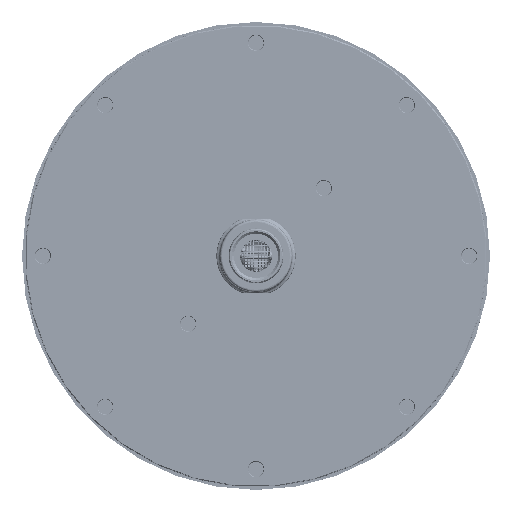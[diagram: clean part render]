
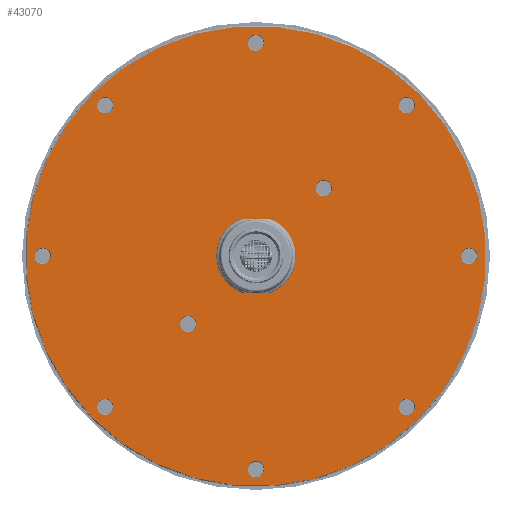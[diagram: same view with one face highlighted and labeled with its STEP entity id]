
A CAD part, top view. The second image highlights one B-rep face of the part: STEP entity #43070.
In plain terms, the highlighted planar face has unit normal (0, 0, 1).
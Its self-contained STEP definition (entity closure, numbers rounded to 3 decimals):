
#8363=FACE_BOUND('',#11437,.T.);
#8364=FACE_BOUND('',#11438,.T.);
#8365=FACE_BOUND('',#11439,.T.);
#8366=FACE_BOUND('',#11440,.T.);
#8367=FACE_BOUND('',#11441,.T.);
#8368=FACE_BOUND('',#11442,.T.);
#8369=FACE_BOUND('',#11443,.T.);
#8370=FACE_BOUND('',#11444,.T.);
#8371=FACE_BOUND('',#11445,.T.);
#8372=FACE_BOUND('',#11446,.T.);
#8373=FACE_BOUND('',#11447,.T.);
#9093=FACE_OUTER_BOUND('',#11436,.T.);
#11436=EDGE_LOOP('',(#28710));
#11437=EDGE_LOOP('',(#28711));
#11438=EDGE_LOOP('',(#28712));
#11439=EDGE_LOOP('',(#28713));
#11440=EDGE_LOOP('',(#28714));
#11441=EDGE_LOOP('',(#28715));
#11442=EDGE_LOOP('',(#28716));
#11443=EDGE_LOOP('',(#28717));
#11444=EDGE_LOOP('',(#28718));
#11445=EDGE_LOOP('',(#28719));
#11446=EDGE_LOOP('',(#28720));
#11447=EDGE_LOOP('',(#28721));
#14150=CIRCLE('',#45737,98.75);
#14152=CIRCLE('',#45740,3.5);
#14153=CIRCLE('',#45741,3.5);
#14154=CIRCLE('',#45742,3.5);
#14155=CIRCLE('',#45743,3.5);
#14156=CIRCLE('',#45744,3.5);
#14157=CIRCLE('',#45745,3.5);
#14158=CIRCLE('',#45746,3.5);
#14159=CIRCLE('',#45747,3.5);
#14160=CIRCLE('',#45748,3.5);
#14161=CIRCLE('',#45749,3.5);
#14162=CIRCLE('',#45750,14.525);
#16077=VERTEX_POINT('',#57792);
#16078=VERTEX_POINT('',#57796);
#16079=VERTEX_POINT('',#57798);
#16080=VERTEX_POINT('',#57800);
#16081=VERTEX_POINT('',#57802);
#16082=VERTEX_POINT('',#57804);
#16083=VERTEX_POINT('',#57806);
#16084=VERTEX_POINT('',#57808);
#16085=VERTEX_POINT('',#57810);
#16086=VERTEX_POINT('',#57812);
#16087=VERTEX_POINT('',#57814);
#16088=VERTEX_POINT('',#57816);
#20791=EDGE_CURVE('',#16077,#16077,#14150,.T.);
#20793=EDGE_CURVE('',#16078,#16078,#14152,.T.);
#20794=EDGE_CURVE('',#16079,#16079,#14153,.T.);
#20795=EDGE_CURVE('',#16080,#16080,#14154,.T.);
#20796=EDGE_CURVE('',#16081,#16081,#14155,.T.);
#20797=EDGE_CURVE('',#16082,#16082,#14156,.T.);
#20798=EDGE_CURVE('',#16083,#16083,#14157,.T.);
#20799=EDGE_CURVE('',#16084,#16084,#14158,.T.);
#20800=EDGE_CURVE('',#16085,#16085,#14159,.T.);
#20801=EDGE_CURVE('',#16086,#16086,#14160,.T.);
#20802=EDGE_CURVE('',#16087,#16087,#14161,.T.);
#20803=EDGE_CURVE('',#16088,#16088,#14162,.T.);
#28710=ORIENTED_EDGE('',*,*,#20791,.F.);
#28711=ORIENTED_EDGE('',*,*,#20793,.F.);
#28712=ORIENTED_EDGE('',*,*,#20794,.F.);
#28713=ORIENTED_EDGE('',*,*,#20795,.F.);
#28714=ORIENTED_EDGE('',*,*,#20796,.F.);
#28715=ORIENTED_EDGE('',*,*,#20797,.F.);
#28716=ORIENTED_EDGE('',*,*,#20798,.F.);
#28717=ORIENTED_EDGE('',*,*,#20799,.F.);
#28718=ORIENTED_EDGE('',*,*,#20800,.F.);
#28719=ORIENTED_EDGE('',*,*,#20801,.F.);
#28720=ORIENTED_EDGE('',*,*,#20802,.F.);
#28721=ORIENTED_EDGE('',*,*,#20803,.F.);
#42604=PLANE('',#45739);
#43070=ADVANCED_FACE('',(#9093,#8363,#8364,#8365,#8366,#8367,#8368,#8369,
#8370,#8371,#8372,#8373),#42604,.T.);
#45737=AXIS2_PLACEMENT_3D('',#57793,#50137,#50138);
#45739=AXIS2_PLACEMENT_3D('',#57795,#50141,#50142);
#45740=AXIS2_PLACEMENT_3D('',#57797,#50143,#50144);
#45741=AXIS2_PLACEMENT_3D('',#57799,#50145,#50146);
#45742=AXIS2_PLACEMENT_3D('',#57801,#50147,#50148);
#45743=AXIS2_PLACEMENT_3D('',#57803,#50149,#50150);
#45744=AXIS2_PLACEMENT_3D('',#57805,#50151,#50152);
#45745=AXIS2_PLACEMENT_3D('',#57807,#50153,#50154);
#45746=AXIS2_PLACEMENT_3D('',#57809,#50155,#50156);
#45747=AXIS2_PLACEMENT_3D('',#57811,#50157,#50158);
#45748=AXIS2_PLACEMENT_3D('',#57813,#50159,#50160);
#45749=AXIS2_PLACEMENT_3D('',#57815,#50161,#50162);
#45750=AXIS2_PLACEMENT_3D('',#57817,#50163,#50164);
#50137=DIRECTION('center_axis',(0.,0.,-1.));
#50138=DIRECTION('ref_axis',(-0.707,0.707,0.));
#50141=DIRECTION('center_axis',(0.,0.,1.));
#50142=DIRECTION('ref_axis',(0.707,-0.707,0.));
#50143=DIRECTION('center_axis',(0.,0.,1.));
#50144=DIRECTION('ref_axis',(0.,1.,0.));
#50145=DIRECTION('center_axis',(0.,0.,1.));
#50146=DIRECTION('ref_axis',(-0.707,0.707,0.));
#50147=DIRECTION('center_axis',(0.,0.,1.));
#50148=DIRECTION('ref_axis',(-1.,0.,0.));
#50149=DIRECTION('center_axis',(0.,0.,1.));
#50150=DIRECTION('ref_axis',(-0.707,-0.707,0.));
#50151=DIRECTION('center_axis',(0.,0.,1.));
#50152=DIRECTION('ref_axis',(0.,-1.,0.));
#50153=DIRECTION('center_axis',(0.,0.,1.));
#50154=DIRECTION('ref_axis',(0.707,-0.707,0.));
#50155=DIRECTION('center_axis',(0.,0.,1.));
#50156=DIRECTION('ref_axis',(1.,0.,0.));
#50157=DIRECTION('center_axis',(0.,0.,1.));
#50158=DIRECTION('ref_axis',(0.707,0.707,0.));
#50159=DIRECTION('center_axis',(0.,0.,1.));
#50160=DIRECTION('ref_axis',(-0.707,-0.707,0.));
#50161=DIRECTION('center_axis',(0.,0.,1.));
#50162=DIRECTION('ref_axis',(0.707,0.707,0.));
#50163=DIRECTION('center_axis',(0.,0.,1.));
#50164=DIRECTION('ref_axis',(1.,0.,0.));
#57792=CARTESIAN_POINT('',(-69.522,140.656,83.526));
#57793=CARTESIAN_POINT('Origin',(0.,70.526,83.526));
#57795=CARTESIAN_POINT('Origin',(0.,70.526,83.526));
#57796=CARTESIAN_POINT('',(0.,158.526,83.526));
#57797=CARTESIAN_POINT('Origin',(0.,162.026,83.526));
#57798=CARTESIAN_POINT('',(-62.225,132.752,83.526));
#57799=CARTESIAN_POINT('Origin',(-64.7,135.226,83.526));
#57800=CARTESIAN_POINT('',(-88.,70.526,83.526));
#57801=CARTESIAN_POINT('Origin',(-91.5,70.526,83.526));
#57802=CARTESIAN_POINT('',(-62.225,8.301,83.526));
#57803=CARTESIAN_POINT('Origin',(-64.7,5.826,83.526));
#57804=CARTESIAN_POINT('',(0.,-17.474,83.526));
#57805=CARTESIAN_POINT('Origin',(0.,-20.974,83.526));
#57806=CARTESIAN_POINT('',(62.225,8.301,83.526));
#57807=CARTESIAN_POINT('Origin',(64.7,5.826,83.526));
#57808=CARTESIAN_POINT('',(88.,70.526,83.526));
#57809=CARTESIAN_POINT('Origin',(91.5,70.526,83.526));
#57810=CARTESIAN_POINT('',(26.623,97.149,83.526));
#57811=CARTESIAN_POINT('Origin',(29.097,99.624,83.526));
#57812=CARTESIAN_POINT('',(-26.623,43.904,83.526));
#57813=CARTESIAN_POINT('Origin',(-29.097,41.429,83.526));
#57814=CARTESIAN_POINT('',(62.225,132.752,83.526));
#57815=CARTESIAN_POINT('Origin',(64.7,135.226,83.526));
#57816=CARTESIAN_POINT('',(14.525,70.526,83.526));
#57817=CARTESIAN_POINT('Origin',(0.,70.526,83.526));
